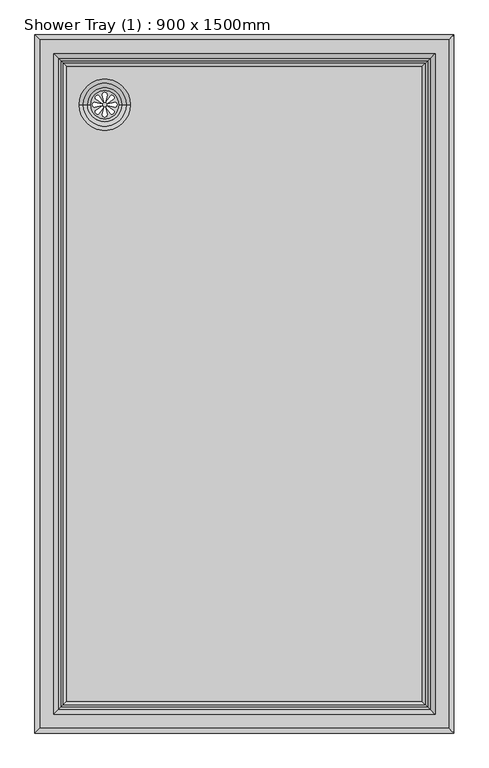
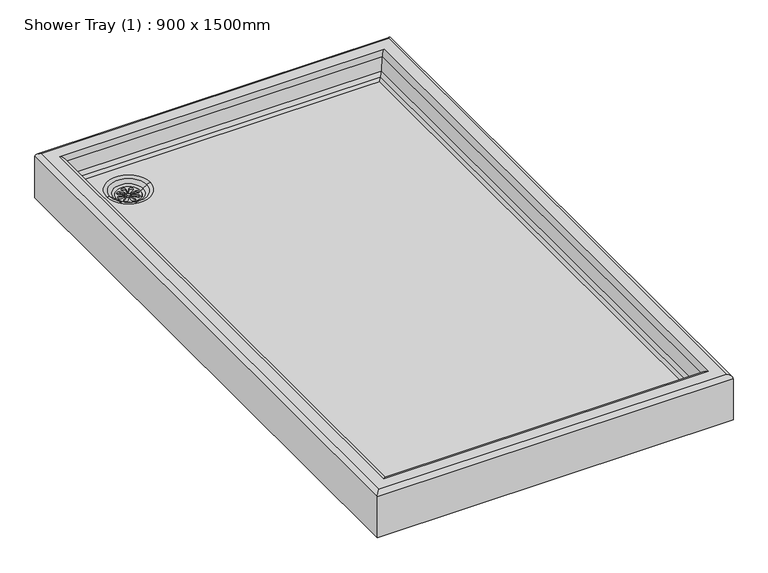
"""IFC4 building model written with IfcOpenShell, lengths in millimetres: flow terminal geometry, Shower Tray (1) : 900 x 1500mm."""

from ifc_helpers import new_model, si_unit, point, frame, frame_2d, origin, place, context, project, spatial, polyline, circle_curve, ellipse_curve, trimmed, segment, composite_curve, outline, extrude, source, transform, mapped, element, save
from ifc_brep_helpers import plane_surface, cylinder_surface, revolved_surface, advanced_brep


def shower_tray_1_900_x_1500mm_318f06ce(model_context):
    return source(origin(), model_context, "Body", "SolidModel", [
        extrude(outline(composite_curve([segment(trimmed(circle_curve(frame_2d((-300.0, 600.0)), 30.0), [point((-330.0, 600.0))], [point((-270.0, 600.0))], False, "CARTESIAN"), True, "CONTINUOUS"), segment(trimmed(circle_curve(frame_2d((-300.0, 600.0)), 30.0), [point((-270.0, 600.0))], [point((-330.0, 600.0))], False, "CARTESIAN"), True, "CONTINUOUS")], self_intersect=False), holes=[composite_curve([segment(polyline([(-298.0437984, 607.2242832), (-295.0173347, 621.5301417)]), True, "CONTINUOUS"), segment(trimmed(circle_curve(frame_2d((-300.0, 621.5301417)), 4.9826653), [point((-295.0173347, 621.5301417))], [point((-304.9826653, 621.5301417))], True, "CARTESIAN"), True, "CONTINUOUS"), segment(polyline([(-304.9826653, 621.5301417), (-302.1435586, 607.2242832)]), True, "CONTINUOUS"), segment(trimmed(circle_curve(frame_2d((-300.0936785, 607.2242832)), 2.0498801), [point((-302.1435586, 607.2242832))], [point((-298.0437984, 607.2242832))], True, "CARTESIAN"), True, "CONTINUOUS")], self_intersect=False), composite_curve([segment(trimmed(circle_curve(frame_2d((-300.0936785, 592.7757168)), 2.0498801), [point((-298.0437984, 592.7757168))], [point((-302.1435586, 592.7757168))], True, "CARTESIAN"), True, "CONTINUOUS"), segment(polyline([(-302.1435586, 592.7757168), (-304.9826653, 578.4698583)]), True, "CONTINUOUS"), segment(trimmed(circle_curve(frame_2d((-300.0, 578.4698583)), 4.9826653), [point((-304.9826653, 578.4698583))], [point((-295.0173347, 578.4698583))], True, "CARTESIAN"), True, "CONTINUOUS"), segment(polyline([(-295.0173347, 578.4698583), (-298.0437984, 592.7757168)]), True, "CONTINUOUS")], self_intersect=False), composite_curve([segment(polyline([(-307.2242832, 601.9562016), (-321.5301417, 604.9826653)]), True, "CONTINUOUS"), segment(trimmed(circle_curve(frame_2d((-321.5301417, 600.0)), 4.9826653), [point((-321.5301417, 604.9826653))], [point((-321.5301417, 595.0173347))], True, "CARTESIAN"), True, "CONTINUOUS"), segment(polyline([(-321.5301417, 595.0173347), (-307.2242832, 597.8564414)]), True, "CONTINUOUS"), segment(trimmed(circle_curve(frame_2d((-307.2242832, 599.9063215)), 2.0498801), [point((-307.2242832, 597.8564414))], [point((-307.2242832, 601.9562016))], True, "CARTESIAN"), True, "CONTINUOUS")], self_intersect=False), composite_curve([segment(trimmed(circle_curve(frame_2d((-292.7757168, 599.9063215)), 2.0498801), [point((-292.7757168, 601.9562016))], [point((-292.7757168, 597.8564414))], True, "CARTESIAN"), True, "CONTINUOUS"), segment(polyline([(-292.7757168, 597.8564414), (-278.4698583, 595.0173347)]), True, "CONTINUOUS"), segment(trimmed(circle_curve(frame_2d((-278.4698583, 600.0)), 4.9826653), [point((-278.4698583, 595.0173347))], [point((-278.4698583, 604.9826653))], True, "CARTESIAN"), True, "CONTINUOUS"), segment(polyline([(-278.4698583, 604.9826653), (-292.7757168, 601.9562016)]), True, "CONTINUOUS")], self_intersect=False), composite_curve([segment(polyline([(-303.7250963, 606.4915831), (-311.7008327, 618.7473856)]), True, "CONTINUOUS"), segment(trimmed(circle_curve(frame_2d((-315.2241092, 615.2241092)), 4.9826653), [point((-311.7008327, 618.7473856))], [point((-318.7473856, 611.7008327))], True, "CARTESIAN"), True, "CONTINUOUS"), segment(polyline([(-318.7473856, 611.7008327), (-306.6240645, 603.5926149)]), True, "CONTINUOUS"), segment(trimmed(circle_curve(frame_2d((-305.1745804, 605.042099)), 2.0498801), [point((-306.6240645, 603.5926149))], [point((-303.7250963, 606.4915831))], True, "CARTESIAN"), True, "CONTINUOUS")], self_intersect=False), composite_curve([segment(trimmed(circle_curve(frame_2d((-294.957901, 594.8254196)), 2.0498801), [point((-293.5084169, 596.2749037))], [point((-296.4073851, 593.3759355))], True, "CARTESIAN"), True, "CONTINUOUS"), segment(polyline([(-296.4073851, 593.3759355), (-288.2991673, 581.2526144)]), True, "CONTINUOUS"), segment(trimmed(circle_curve(frame_2d((-284.7758908, 584.7758908)), 4.9826653), [point((-288.2991673, 581.2526144))], [point((-281.2526144, 588.2991673))], True, "CARTESIAN"), True, "CONTINUOUS"), segment(polyline([(-281.2526144, 588.2991673), (-293.5084169, 596.2749037)]), True, "CONTINUOUS")], self_intersect=False), composite_curve([segment(polyline([(-306.4915831, 596.2749037), (-318.7473856, 588.2991673)]), True, "CONTINUOUS"), segment(trimmed(circle_curve(frame_2d((-315.2241092, 584.7758908)), 4.9826653), [point((-318.7473856, 588.2991673))], [point((-311.7008327, 581.2526144))], True, "CARTESIAN"), True, "CONTINUOUS"), segment(polyline([(-311.7008327, 581.2526144), (-303.5926149, 593.3759355)]), True, "CONTINUOUS"), segment(trimmed(circle_curve(frame_2d((-305.042099, 594.8254196)), 2.0498801), [point((-303.5926149, 593.3759355))], [point((-306.4915831, 596.2749037))], True, "CARTESIAN"), True, "CONTINUOUS")], self_intersect=False), composite_curve([segment(trimmed(circle_curve(frame_2d((-294.8254196, 605.042099)), 2.0498801), [point((-296.2749037, 606.4915831))], [point((-293.3759355, 603.5926149))], True, "CARTESIAN"), True, "CONTINUOUS"), segment(polyline([(-293.3759355, 603.5926149), (-281.2526144, 611.7008327)]), True, "CONTINUOUS"), segment(trimmed(circle_curve(frame_2d((-284.7758908, 615.2241092)), 4.9826653), [point((-281.2526144, 611.7008327))], [point((-288.2991673, 618.7473856))], True, "CARTESIAN"), True, "CONTINUOUS"), segment(polyline([(-288.2991673, 618.7473856), (-296.2749037, 606.4915831)]), True, "CONTINUOUS")], self_intersect=False)]), frame((0.0, 0.0, 43.429774), z_axis=(0.0, 0.0, 1.0), x_axis=(1.0, 0.0, 0.0)), (0.0, 0.0, 1.0), 3.0),
        advanced_brep(
        [(450.0, 750.0, 0.0), (450.0, 750.0, 110.0), (450.0, -750.0, 110.0), (450.0, -750.0, 0.0), (388.5950747, 688.5950747, 66.1486916), (382.446383, 682.446383, 60.0), (382.446383, -682.446383, 60.0), (388.5950747, -688.5950747, 66.1486916), (394.1490941, -694.1490941, 76.8178637), (394.1490941, 694.1490941, 76.8178637), (400.0, -700.0, 110.0), (400.0, 700.0, 110.0), (410.0, -710.0, 120.0), (410.0, 710.0, 120.0), (440.0, 740.0, 120.0), (440.0, -740.0, 120.0), (-450.0, -750.0, 110.0), (-450.0, -750.0, 0.0), (-382.446383, -682.446383, 60.0), (-388.5950747, -688.5950747, 66.1486916), (-394.1490941, -694.1490941, 76.8178637), (-400.0, -700.0, 110.0), (-410.0, -710.0, 120.0), (-440.0, -740.0, 120.0), (-450.0, 750.0, 110.0), (-450.0, 750.0, 0.0), (-382.446383, 682.446383, 60.0), (-388.5950747, 688.5950747, 66.1486916), (-394.1490941, 694.1490941, 76.8178637), (-400.0, 700.0, 110.0), (-410.0, 710.0, 120.0), (-440.0, 740.0, 120.0), (-330.0, 600.0, 0.0), (-270.0, 600.0, 0.0), (-355.0, 600.0, 60.0), (-245.0, 600.0, 60.0), (-270.0, 600.0, 46.429774), (-330.0, 600.0, 46.429774), (-263.3333333, 600.0, 50.0), (-336.6666667, 600.0, 50.0), (-254.0, 600.0, 57.0), (-346.0, 600.0, 57.0)],
        [
            (0, 1),
            (1, 2),
            (2, 3),
            (3, 0),
            (4, 5),
            (5, 6),
            (6, 7),
            (7, 4),
            (7, 8, ellipse_curve(frame((374.452939, -674.452939, 80.2908273), z_axis=(-0.7071067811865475, -0.7071067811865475, 0.0), x_axis=(0.7071067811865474, -0.7071067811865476, 0.0)), 28.2842712, 20.0)),
            (8, 9),
            (9, 4, ellipse_curve(frame((374.452939, 674.452939, 80.2908273), z_axis=(-0.7071067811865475, 0.7071067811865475, 0.0), x_axis=(-0.7071067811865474, -0.7071067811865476, 0.0)), 28.2842712, 20.0)),
            (8, 10),
            (10, 11),
            (11, 9),
            (10, 12, ellipse_curve(frame((410.0, -710.0, 110.0), z_axis=(0.7071067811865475, 0.7071067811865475, 0.0), x_axis=(-0.7071067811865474, 0.7071067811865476, 0.0)), 14.1421356, 10.0)),
            (12, 13),
            (13, 11, ellipse_curve(frame((410.0, 710.0, 110.0), z_axis=(0.7071067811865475, -0.7071067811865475, 0.0), x_axis=(0.7071067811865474, 0.7071067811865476, 0.0)), 14.1421356, 10.0)),
            (1, 14, ellipse_curve(frame((440.0, 740.0, 110.0), z_axis=(0.7071067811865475, -0.7071067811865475, 0.0), x_axis=(0.7071067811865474, 0.7071067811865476, 0.0)), 14.1421356, 10.0)),
            (14, 15),
            (15, 2, ellipse_curve(frame((440.0, -740.0, 110.0), z_axis=(0.7071067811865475, 0.7071067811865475, 0.0), x_axis=(-0.7071067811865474, 0.7071067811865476, 0.0)), 14.1421356, 10.0)),
            (2, 16),
            (16, 17),
            (17, 3),
            (6, 18),
            (18, 19),
            (19, 7),
            (19, 20, ellipse_curve(frame((-374.452939, -674.452939, 80.2908273), z_axis=(-0.7071067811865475, 0.7071067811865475, 0.0), x_axis=(-0.7071067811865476, -0.7071067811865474, 0.0)), 28.2842712, 20.0)),
            (20, 8),
            (20, 21),
            (21, 10),
            (21, 22, ellipse_curve(frame((-410.0, -710.0, 110.0), z_axis=(0.7071067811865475, -0.7071067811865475, 0.0), x_axis=(0.7071067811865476, 0.7071067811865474, 0.0)), 14.1421356, 10.0)),
            (22, 12),
            (15, 23),
            (23, 16, ellipse_curve(frame((-440.0, -740.0, 110.0), z_axis=(0.7071067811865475, -0.7071067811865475, 0.0), x_axis=(0.7071067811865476, 0.7071067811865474, 0.0)), 14.1421356, 10.0)),
            (16, 24),
            (24, 25),
            (25, 17),
            (18, 26),
            (26, 27),
            (27, 19),
            (27, 28, ellipse_curve(frame((-374.452939, 674.452939, 80.2908273), z_axis=(0.7071067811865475, 0.7071067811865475, 0.0), x_axis=(-0.7071067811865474, 0.7071067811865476, 0.0)), 28.2842712, 20.0)),
            (28, 20),
            (28, 29),
            (29, 21),
            (29, 30, ellipse_curve(frame((-410.0, 710.0, 110.0), z_axis=(-0.7071067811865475, -0.7071067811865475, 0.0), x_axis=(0.7071067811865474, -0.7071067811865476, 0.0)), 14.1421356, 10.0)),
            (30, 22),
            (23, 31),
            (31, 24, ellipse_curve(frame((-440.0, 740.0, 110.0), z_axis=(-0.7071067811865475, -0.7071067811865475, 0.0), x_axis=(0.7071067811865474, -0.7071067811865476, 0.0)), 14.1421356, 10.0)),
            (0, 25),
            (24, 1),
            (32, 33, circle_curve(frame((-300.0, 600.0, 0.0), z_axis=(0.0, 0.0, 1.0), x_axis=(1.0, 0.0, 0.0)), 30.0)),
            (33, 32, circle_curve(frame((-300.0, 600.0, 0.0), z_axis=(0.0, 0.0, 1.0), x_axis=(1.0, 0.0, 0.0)), 30.0)),
            (4, 27),
            (26, 5),
            (9, 28),
            (11, 29),
            (13, 30),
            (14, 31),
            (34, 35, circle_curve(frame((-300.0, 600.0, 60.0), z_axis=(0.0, 0.0, -1.0), x_axis=(1.0, 0.0, 0.0)), 55.0)),
            (35, 34, circle_curve(frame((-300.0, 600.0, 60.0), z_axis=(0.0, 0.0, -1.0), x_axis=(1.0, 0.0, 0.0)), 55.0)),
            (33, 36),
            (36, 37, circle_curve(frame((-300.0, 600.0, 46.429774), z_axis=(0.0, 0.0, 1.0), x_axis=(1.0, 0.0, 0.0)), 30.0)),
            (37, 32),
            (37, 36, circle_curve(frame((-300.0, 600.0, 46.429774), z_axis=(0.0, 0.0, 1.0), x_axis=(1.0, 0.0, 0.0)), 30.0)),
            (38, 39, circle_curve(frame((-300.0, 600.0, 50.0), z_axis=(0.0, 0.0, 1.0), x_axis=(1.0, 0.0, 0.0)), 36.6666667)),
            (39, 37, circle_curve(frame((-321.6666667, 600.0, 70.0), z_axis=(0.0, -1.0, 0.0), x_axis=(-1.0, 0.0, 0.0)), 25.0)),
            (36, 38, circle_curve(frame((-278.3333333, 600.0, 70.0), z_axis=(0.0, -1.0, 0.0), x_axis=(1.0, 0.0, 0.0)), 25.0)),
            (39, 38, circle_curve(frame((-300.0, 600.0, 50.0), z_axis=(0.0, 0.0, 1.0), x_axis=(1.0, 0.0, 0.0)), 36.6666667)),
            (38, 40),
            (40, 41, circle_curve(frame((-300.0, 600.0, 57.0), z_axis=(0.0, 0.0, 1.0), x_axis=(1.0, 0.0, 0.0)), 46.0)),
            (41, 39),
            (41, 40, circle_curve(frame((-300.0, 600.0, 57.0), z_axis=(0.0, 0.0, 1.0), x_axis=(1.0, 0.0, 0.0)), 46.0)),
            (40, 35, circle_curve(frame((-245.0, 600.0, 45.0), z_axis=(0.0, 1.0, 0.0), x_axis=(1.0, 0.0, 0.0)), 15.0)),
            (34, 41, circle_curve(frame((-355.0, 600.0, 45.0), z_axis=(0.0, 1.0, 0.0), x_axis=(-1.0, 0.0, 0.0)), 15.0)),
        ],
        [
            plane_surface(frame((450.0, 750.0, 110.0), z_axis=(1.0, 0.0, 0.0), x_axis=(0.0, -1.0, 0.0))),
            plane_surface(frame((382.446383, 682.446383, 60.0), z_axis=(-0.7071067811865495, 0.0, 0.7071067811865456), x_axis=(0.0, -1.0, 0.0))),
            revolved_surface(polyline([(394.452939, -694.4529389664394, 80.2908273), (394.452939, 694.4529389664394, 80.2908273)]), (374.452939, 750.0, 80.2908273), (0.0, -1.0, 0.0)),
            plane_surface(frame((394.1490941, 694.1490941, 76.8178637), z_axis=(-0.9848077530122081, 0.0, 0.1736481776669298), x_axis=(0.0, -1.0, 0.0))),
            cylinder_surface(frame((410.0, 750.0, 110.0), z_axis=(0.0, 1.0, 0.0), x_axis=(1.0, 0.0, 0.0)), 10.0),
            cylinder_surface(frame((440.0, 750.0, 110.0), z_axis=(0.0, 1.0, 0.0), x_axis=(1.0, 0.0, 0.0)), 10.0),
            plane_surface(frame((450.0, -750.0, 110.0), z_axis=(0.0, -1.0, 0.0), x_axis=(-1.0, 0.0, 0.0))),
            plane_surface(frame((382.446383, -682.446383, 60.0), z_axis=(0.0, 0.7071067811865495, 0.7071067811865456), x_axis=(-1.0, 0.0, 0.0))),
            revolved_surface(polyline([(-394.45293896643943, -694.452939, 80.2908273), (394.4529389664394, -694.452939, 80.2908273)]), (450.0, -674.452939, 80.2908273), (-1.0, 0.0, 0.0)),
            plane_surface(frame((394.1490941, -694.1490941, 76.8178637), z_axis=(0.0, 0.9848077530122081, 0.1736481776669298), x_axis=(-1.0, 0.0, 0.0))),
            cylinder_surface(frame((450.0, -710.0, 110.0), z_axis=(1.0, 0.0, 0.0), x_axis=(0.0, -1.0, 0.0)), 10.0),
            cylinder_surface(frame((450.0, -740.0, 110.0), z_axis=(1.0, 0.0, 0.0), x_axis=(0.0, -1.0, 0.0)), 10.0),
            plane_surface(frame((-450.0, -750.0, 110.0), z_axis=(-1.0, 0.0, 0.0), x_axis=(0.0, 1.0, 0.0))),
            plane_surface(frame((-382.446383, -682.446383, 60.0), z_axis=(0.7071067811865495, 0.0, 0.7071067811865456), x_axis=(0.0, 1.0, 0.0))),
            revolved_surface(polyline([(-394.452939, 694.4529389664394, 80.2908273), (-394.452939, -694.4529389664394, 80.2908273)]), (-374.452939, -750.0, 80.2908273), (0.0, 1.0, 0.0)),
            plane_surface(frame((-394.1490941, -694.1490941, 76.8178637), z_axis=(0.9848077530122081, 0.0, 0.1736481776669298), x_axis=(0.0, 1.0, 0.0))),
            cylinder_surface(frame((-410.0, -750.0, 110.0), z_axis=(0.0, -1.0, 0.0), x_axis=(-1.0, 0.0, 0.0)), 10.0),
            cylinder_surface(frame((-440.0, -750.0, 110.0), z_axis=(0.0, -1.0, 0.0), x_axis=(-1.0, 0.0, 0.0)), 10.0),
            plane_surface(frame((-450.0, 750.0, 110.0), z_axis=(0.0, 1.0, 0.0), x_axis=(1.0, 0.0, 0.0))),
            plane_surface(frame((-450.0, 750.0, 0.0), z_axis=(0.0, 0.0, -1.0), x_axis=(1.0, 0.0, 0.0))),
            plane_surface(frame((-382.446383, 682.446383, 60.0), z_axis=(0.0, -0.7071067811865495, 0.7071067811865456), x_axis=(1.0, 0.0, 0.0))),
            revolved_surface(polyline([(394.45293896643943, 694.452939, 80.2908273), (-394.4529389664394, 694.452939, 80.2908273)]), (-450.0, 674.452939, 80.2908273), (1.0, 0.0, 0.0)),
            plane_surface(frame((-394.1490941, 694.1490941, 76.8178637), z_axis=(0.0, -0.9848077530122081, 0.1736481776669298), x_axis=(1.0, 0.0, 0.0))),
            cylinder_surface(frame((-450.0, 710.0, 110.0), z_axis=(-1.0, 0.0, 0.0), x_axis=(0.0, 1.0, 0.0)), 10.0),
            plane_surface(frame((-410.0, 710.0, 120.0), z_axis=(0.0, 0.0, 1.0), x_axis=(1.0, 0.0, 0.0))),
            cylinder_surface(frame((-450.0, 740.0, 110.0), z_axis=(-1.0, 0.0, 0.0), x_axis=(0.0, 1.0, 0.0)), 10.0),
            plane_surface(frame((-270.0, 600.0, 60.0), z_axis=(0.0, 0.0, 1.0), x_axis=(0.0, -1.0, 0.0))),
            revolved_surface(polyline([(-270.0, 600.0, 0.0), (-270.0, 600.0, 46.429774)]), (-300.0, 600.0, 0.0), (0.0, 0.0, -1.0)),
            revolved_surface(trimmed(ellipse_curve(frame((-278.3333333, 600.0, 70.0), z_axis=(0.0, 1.0, 0.0), x_axis=(1.0, 0.0, 0.0)), 25.0, 25.0), [point((-263.3333333, 600.0, 50.0))], [point((-278.3333333, 600.0, 45.0))], True, "CARTESIAN"), (-300.0, 600.0, -508.0), (0.0, 0.0, 1.0)),
            revolved_surface(polyline([(-254.0, 600.0, 57.0), (-263.3333333, 600.0, 50.0)]), (-300.0, 600.0, -508.0), (0.0, 0.0, 1.0)),
            revolved_surface(trimmed(ellipse_curve(frame((-245.0, 600.0, 45.0), z_axis=(0.0, -1.0, 0.0), x_axis=(1.0, 0.0, 0.0)), 15.0, 15.0), [point((-245.0, 600.0, 60.0))], [point((-254.0, 600.0, 57.0))], True, "CARTESIAN"), (-300.0, 600.0, -508.0), (0.0, 0.0, 1.0)),
        ],
        [
            (0, [[1, 2, 3, 4]]),
            (1, [[5, 6, 7, 8]]),
            (2, [[-8, 9, 10, 11]]),
            (3, [[-10, 12, 13, 14]]),
            (4, [[-13, 15, 16, 17]]),
            (5, [[-2, 18, 19, 20]]),
            (6, [[-3, 21, 22, 23]]),
            (7, [[-7, 24, 25, 26]]),
            (8, [[-9, -26, 27, 28]]),
            (9, [[-12, -28, 29, 30]]),
            (10, [[-15, -30, 31, 32]]),
            (11, [[-20, 33, 34, -21]]),
            (12, [[-22, 35, 36, 37]]),
            (13, [[-25, 38, 39, 40]]),
            (14, [[-27, -40, 41, 42]]),
            (15, [[-29, -42, 43, 44]]),
            (16, [[-31, -44, 45, 46]]),
            (17, [[-34, 47, 48, -35]]),
            (18, [[-1, 49, -36, 50]]),
            (19, [[-4, -23, -37, -49], [51, 52]]),
            (20, [[-5, 53, -39, 54]]),
            (21, [[-11, 55, -41, -53]]),
            (22, [[-14, 56, -43, -55]]),
            (23, [[-17, 57, -45, -56]]),
            (24, [[-19, 58, -47, -33], [-16, -32, -46, -57]]),
            (25, [[-18, -50, -48, -58]]),
            (26, [[-6, -54, -38, -24], [59, 60]]),
            (27, [[-52, 61, 62, 63]]),
            (27, [[-51, -63, 64, -61]]),
            (28, [[65, 66, -62, 67]]),
            (28, [[68, -67, -64, -66]]),
            (29, [[-65, 69, 70, 71]]),
            (29, [[-68, -71, 72, -69]]),
            (30, [[-70, 73, -59, 74]]),
            (30, [[-72, -74, -60, -73]]),
        ],
    ),
    ])


if __name__ == "__main__":
    model = new_model("IFC4")
    model_context = context("Model", 3, world=origin())
    ifc_project = project(units=[si_unit("LENGTHUNIT", "METRE", prefix="MILLI")], contexts=[model_context])
    site = spatial("IfcSite", under=ifc_project)
    building = spatial("IfcBuilding", under=site)
    placement = place(None, origin())
    shower_tray_1_900_x_1500mm_shape = shower_tray_1_900_x_1500mm_318f06ce(model_context)
    element("IfcFlowTerminal", 1, ObjectType="Shower Tray (1) : 900 x 1500mm", at=placement, inside=building, context=model_context, shape_type="MappedRepresentation", body=[
        mapped(shower_tray_1_900_x_1500mm_shape, transform((0.0, 0.0, 0.0), x_axis=(1.0, 0.0, 0.0), y_axis=(0.0, 1.0, 0.0), z_axis=(0.0, 0.0, 1.0))),
    ])
    save(model, "model.ifc")
